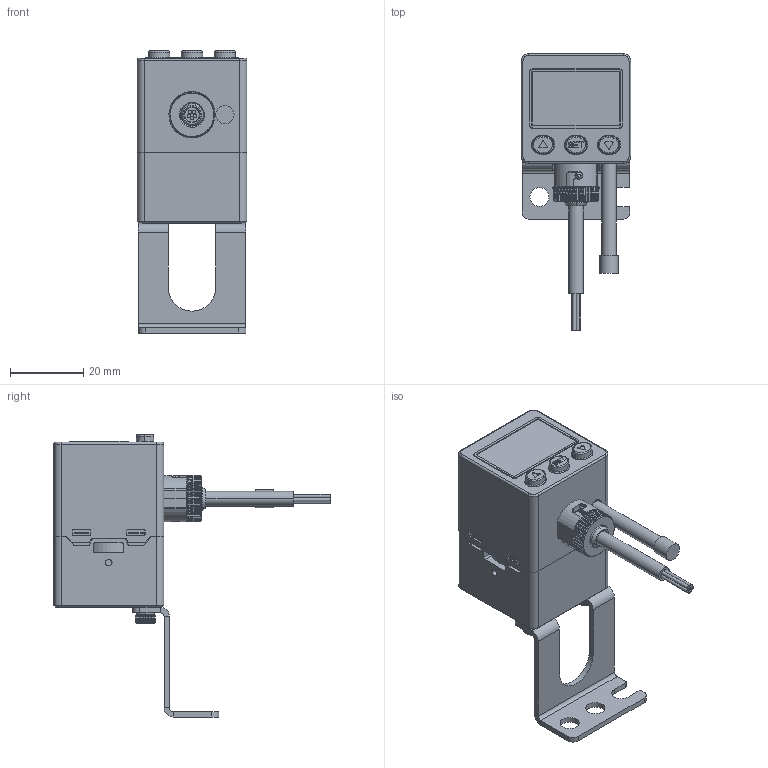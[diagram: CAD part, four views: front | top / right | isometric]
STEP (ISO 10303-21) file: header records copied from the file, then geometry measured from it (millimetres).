
FILE_DESCRIPTION((''),'2;1');
FILE_NAME('KDS_BT-19','2019-07-03T',('Stark'),(''),'CREO PARAMETRIC BY PTC INC, 2014500','CREO PARAMETRIC BY PTC INC, 2014500','');
FILE_SCHEMA(('CONFIG_CONTROL_DESIGN'));
Products named in the file (1): KDS_BT-19
Bounding box: 30 x 75.5 x 77.1 mm (x, y, z)
Volume: 43551.8 mm3; surface area: 12619.9 mm2
Topology: 1 solids, 1 shells, 1281 faces, 3432 edges, 2185 vertices
Faces by surface type: plane 613, cylinder 330, cone 216, bspline 92, torus 24, extrusion 6
Entity records: 52325 total; most frequent: CARTESIAN_POINT 22276, ORIENTED_EDGE 6860, DIRECTION 5431, EDGE_CURVE 3430, VERTEX_POINT 2185, AXIS2_PLACEMENT_3D 1982, VECTOR 1467, LINE 1461
